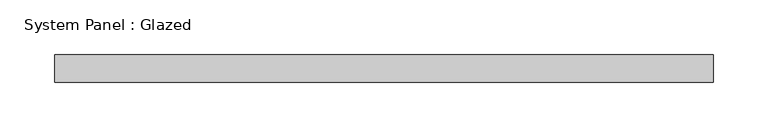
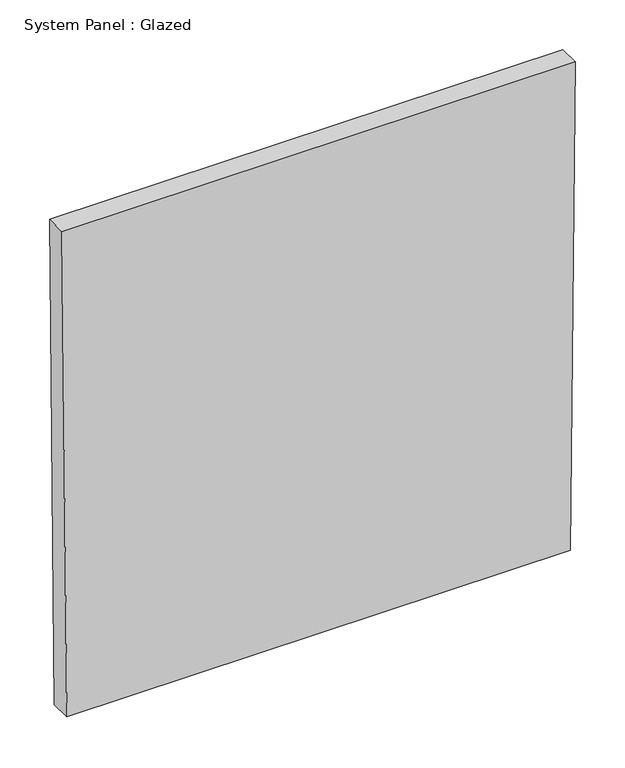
"""IFC4 building model written with IfcOpenShell, lengths in millimetres: plate geometry, System Panel : Glazed."""

from ifc_helpers import new_model, si_unit, frame, origin, place, context, project, spatial, polyline, outline, extrude, source, transform, mapped, element, save


def system_panel_glazed_85b935d5(model_context):
    return source(origin(), model_context, "Body", "SweptSolid", [
        extrude(outline(polyline([(0.0, -293.6508662), (0.0, 293.6508662), (599.973659, 299.2730078), (599.973659, -299.2730078), (0.0, -293.6508662)])), frame((0.0, 24.5, 0.0), z_axis=(0.0, 1.0, 0.0), x_axis=(0.0, 0.0, 1.0)), (0.0, 0.0, 1.0), 25.0),
    ])


if __name__ == "__main__":
    model = new_model("IFC4")
    model_context = context("Model", 3, world=origin())
    ifc_project = project(units=[si_unit("LENGTHUNIT", "METRE", prefix="MILLI")], contexts=[model_context])
    site = spatial("IfcSite", under=ifc_project)
    building = spatial("IfcBuilding", under=site)
    placement = place(None, origin())
    system_panel_glazed_shape = system_panel_glazed_85b935d5(model_context)
    element("IfcPlate", 1, ObjectType="System Panel : Glazed", at=placement, inside=building, context=model_context, shape_type="MappedRepresentation", body=[
        mapped(system_panel_glazed_shape, transform((0.0, 0.0, 0.0), x_axis=(1.0, 0.0, 0.0), y_axis=(0.0, 1.0, 0.0), z_axis=(0.0, 0.0, 1.0))),
    ])
    save(model, "model.ifc")
